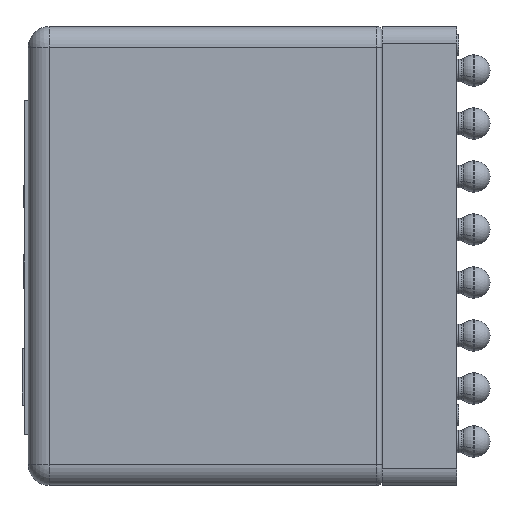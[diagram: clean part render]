
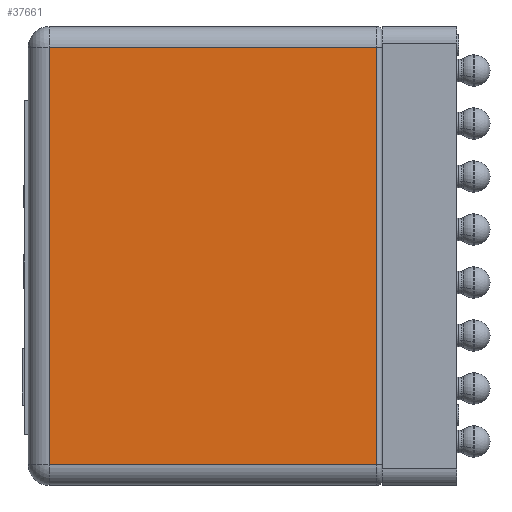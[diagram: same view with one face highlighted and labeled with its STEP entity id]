
A CAD part, left-side view. The second image highlights one B-rep face of the part: STEP entity #37661.
In plain terms, the highlighted planar face has unit normal (-1, 0, 0).
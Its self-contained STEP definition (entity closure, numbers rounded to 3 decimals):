
#1603 = EDGE_LOOP ( 'NONE', ( #6479, #38375, #23697, #28419 ) ) ;
#2089 = CARTESIAN_POINT ( 'NONE',  ( -4., 0.5, -10.5 ) ) ;
#2517 = PLANE ( 'NONE',  #38077 ) ;
#6012 = VERTEX_POINT ( 'NONE', #26966 ) ;
#6479 = ORIENTED_EDGE ( 'NONE', *, *, #21713, .T. ) ;
#7221 = EDGE_CURVE ( 'NONE', #16008, #6012, #21853, .T. ) ;
#9134 = DIRECTION ( 'NONE',  ( -1., 0., 0. ) ) ;
#13570 = EDGE_CURVE ( 'NONE', #36881, #16008, #17145, .T. ) ;
#14061 = VECTOR ( 'NONE', #21347, 1000. ) ;
#15285 = DIRECTION ( 'NONE',  ( 0., 0., -1. ) ) ;
#15605 = CARTESIAN_POINT ( 'NONE',  ( -4., 0., 0. ) ) ;
#16008 = VERTEX_POINT ( 'NONE', #2089 ) ;
#17145 = LINE ( 'NONE', #27734, #14061 ) ;
#17571 = VECTOR ( 'NONE', #15285, 1000. ) ;
#19205 = VERTEX_POINT ( 'NONE', #33874 ) ;
#21347 = DIRECTION ( 'NONE',  ( 0., -1., 0. ) ) ;
#21713 = EDGE_CURVE ( 'NONE', #6012, #19205, #40390, .T. ) ;
#21853 = LINE ( 'NONE', #39098, #28438 ) ;
#23697 = ORIENTED_EDGE ( 'NONE', *, *, #13570, .T. ) ;
#25371 = CARTESIAN_POINT ( 'NONE',  ( -4., 8.355, -10.5 ) ) ;
#26966 = CARTESIAN_POINT ( 'NONE',  ( -4., 0.5, -0.5 ) ) ;
#27225 = LINE ( 'NONE', #38583, #17571 ) ;
#27734 = CARTESIAN_POINT ( 'NONE',  ( -4., 0., -10.5 ) ) ;
#28419 = ORIENTED_EDGE ( 'NONE', *, *, #7221, .T. ) ;
#28438 = VECTOR ( 'NONE', #35828, 1000. ) ;
#32939 = FACE_OUTER_BOUND ( 'NONE', #1603, .T. ) ;
#33874 = CARTESIAN_POINT ( 'NONE',  ( -4., 8.355, -0.5 ) ) ;
#35173 = DIRECTION ( 'NONE',  ( 0., 0., 1. ) ) ;
#35397 = CARTESIAN_POINT ( 'NONE',  ( -4., 8.48, -0.5 ) ) ;
#35828 = DIRECTION ( 'NONE',  ( 0., 0., 1. ) ) ;
#36881 = VERTEX_POINT ( 'NONE', #25371 ) ;
#37661 = ADVANCED_FACE ( 'NONE', ( #32939 ), #2517, .T. ) ;
#38048 = EDGE_CURVE ( 'NONE', #19205, #36881, #27225, .T. ) ;
#38077 = AXIS2_PLACEMENT_3D ( 'NONE', #15605, #9134, #35173 ) ;
#38375 = ORIENTED_EDGE ( 'NONE', *, *, #38048, .T. ) ;
#38554 = DIRECTION ( 'NONE',  ( 0., 1., 0. ) ) ;
#38583 = CARTESIAN_POINT ( 'NONE',  ( -4., 8.355, 0. ) ) ;
#39098 = CARTESIAN_POINT ( 'NONE',  ( -4., 0.5, 0. ) ) ;
#40390 = LINE ( 'NONE', #35397, #42464 ) ;
#42464 = VECTOR ( 'NONE', #38554, 1000. ) ;
